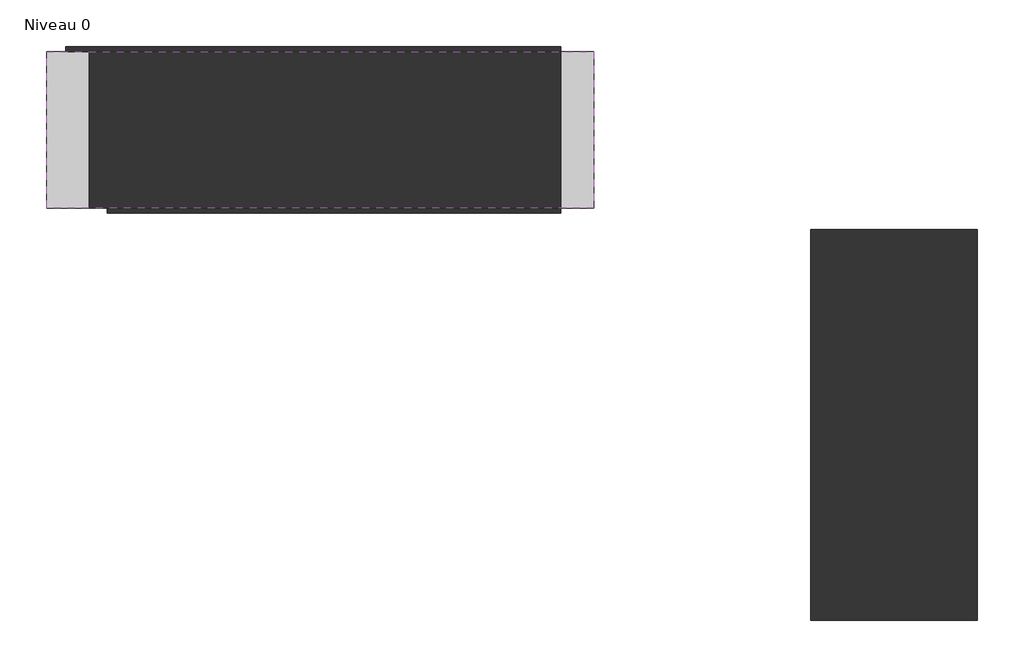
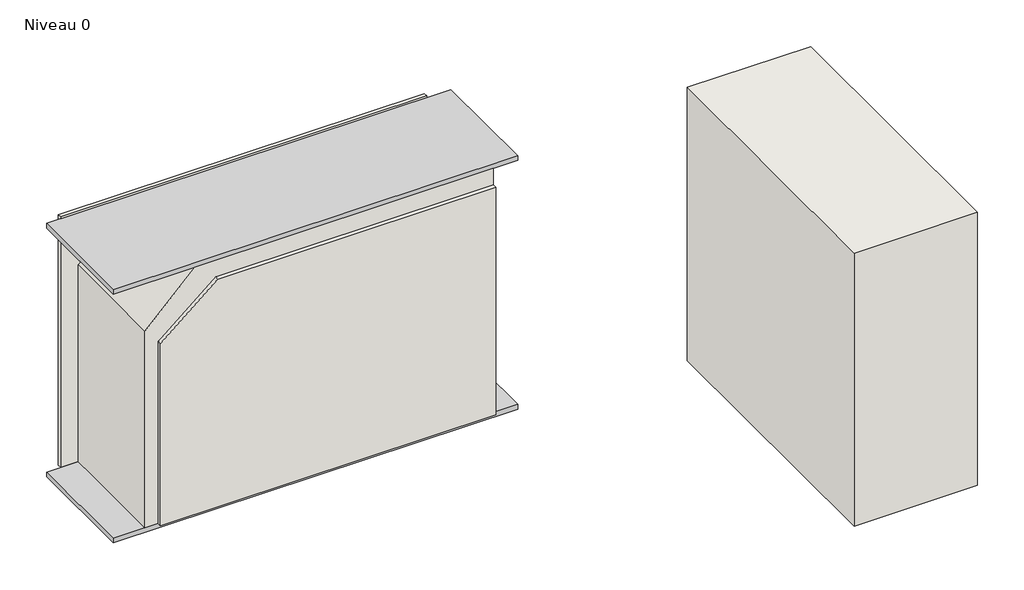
# One storey: 4 walls, 2 beams.
"""IFC4 building model written with IfcOpenShell, lengths in millimetres."""

from ifc_helpers import new_model, si_unit, frame, origin, origin_with_axes, place, context, project, spatial, polyline, outline, extrude, transform, mapped, element, save
from components import beam_1200x50_f424caa6

model = new_model("IFC4")

# Units and contexts
model_context = context("Model", 3, world=origin())
ifc_project = project(units=[si_unit("LENGTHUNIT", "METRE", prefix="MILLI")], contexts=[model_context])

# Site, building, storey
site = spatial("IfcSite", under=ifc_project)
building = spatial("IfcBuilding", under=site)
storey = spatial("IfcBuildingStorey", under=building, Name="Niveau 0", Elevation=0.0)

# Beams
placement = place(None, origin())
beam_1200x50_shape = beam_1200x50_f424caa6(model_context)
element("IfcBeam", 1, ObjectType="Poutre - Bois d'oeuvre : 1200x50", at=placement, inside=storey, context=model_context, shape_type="MappedRepresentation", body=[
    mapped(beam_1200x50_shape, transform((-4161.7812214, -1088.2584766, -25.0), x_axis=(1.0, 0.0, 0.0), y_axis=(0.0, 1.0, 0.0), z_axis=(0.0, 0.0, 1.0))),
])
element("IfcBeam", 2, ObjectType="Poutre - Bois d'oeuvre : 1200x50", at=placement, inside=storey, context=model_context, shape_type="MappedRepresentation", body=[
    mapped(beam_1200x50_shape, transform((-4161.7812214, -1088.2584766, 2705.0), x_axis=(1.0, 0.0, 0.0), y_axis=(0.0, 1.0, 0.0), z_axis=(0.0, 0.0, 1.0))),
])

# Walls
element("IfcWall", 3, ObjectType="Botte de paille", at=placement, inside=storey, context=model_context, shape_type="SweptSolid", body=[
    extrude(outline(polyline([(0.0, -5933.4638423), (0.0, -2315.0543614), (2680.0, -2315.0543614), (2680.0, -5413.4638423), (2160.0, -5933.4638423), (0.0, -5933.4638423)])), frame((0.0, -1688.2584766, 0.0), z_axis=(0.0, 1.0, 0.0), x_axis=(0.0, 0.0, 1.0)), (0.0, 0.0, 1.0), 1200.0),
])
element("IfcWall", 4, ObjectType="Enduit à la chaux", at=placement, inside=storey, context=model_context, shape_type="SweptSolid", body=[
    extrude(outline(polyline([(-2315.0543614, -488.2584766), (-6115.0543614, -488.2584766), (-6115.0543614, -448.2584766), (-2315.0543614, -448.2584766), (-2315.0543614, -488.2584766)])), origin_with_axes(), (0.0, 0.0, 1.0), 2750.0),
])
element("IfcWall", 5, ObjectType="Enduit à la chaux", at=placement, inside=storey, context=model_context, shape_type="SweptSolid", body=[
    extrude(outline(polyline([(0.0, -5795.3588823), (0.0, -2315.0543614), (2500.0, -2315.0543614), (2500.0, -5199.482086), (2000.0, -5795.3588823), (0.0, -5795.3588823)])), frame((0.0, -1728.2584766, 0.0), z_axis=(0.0, 1.0, 0.0), x_axis=(0.0, 0.0, 1.0)), (0.0, 0.0, 1.0), 40.0),
])
element("IfcWall", 6, ObjectType="SBW_09", at=placement, inside=storey, context=model_context, shape_type="SweptSolid", body=[
    extrude(outline(polyline([(-395.8062547, -4855.5228881), (-395.8062547, -1855.5228881), (884.1937453, -1855.5228881), (884.1937453, -4855.5228881), (-395.8062547, -4855.5228881)])), origin_with_axes(), (0.0, 0.0, 1.0), 3000.0),
])

save(model, "model.ifc")
